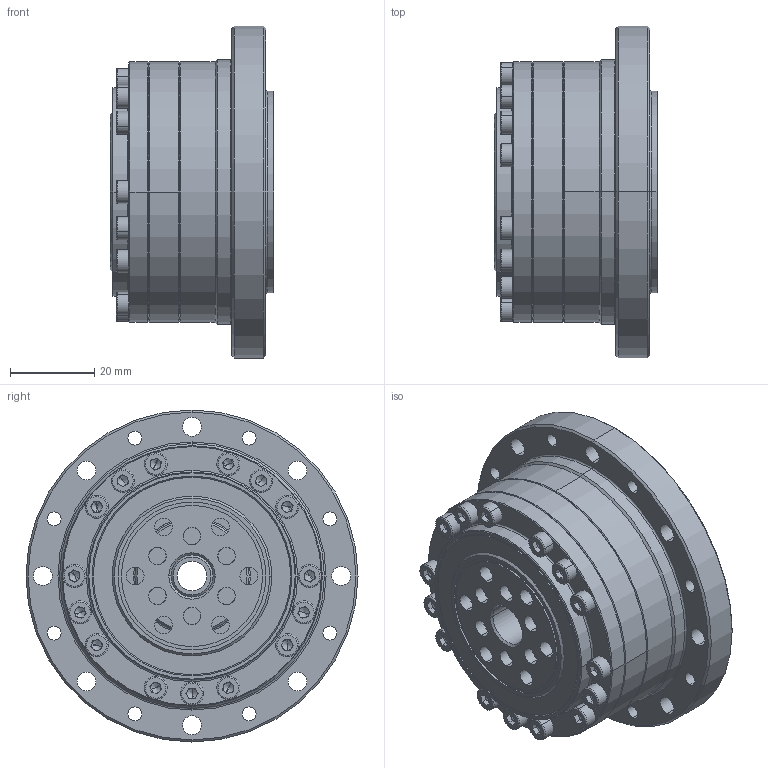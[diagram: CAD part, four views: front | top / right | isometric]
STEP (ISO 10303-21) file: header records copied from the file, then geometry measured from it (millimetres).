
FILE_DESCRIPTION (( 'STEP AP203' ), '1' );
FILE_NAME ('LCSG-17-XXX-C-I.STEP', '2016-08-25T07:40:50', ( 'Windows 蚚誧' ), ( 'Users' ), 'SwSTEP 2.0', 'SolidWorks 2013', '' );
FILE_SCHEMA (( 'CONFIG_CONTROL_DESIGN' ));
Length unit declared in the file: millimetre
Products named in the file (16): RZC-17G内外圈+钢球; socket head cap screw_din_内六角圆柱头螺钉M3 x 16; RZC-17悵厥殤; LCSG-17-XXX-P05-I; 柔性轴承RZC-17G; socket head cap screw_din_内六角圆柱头螺钉M5 x 16; 疏楷汜ん17G-I; 坋趼羞麥芛蹟隊M2 x 4_ISO 7046-1 - M2 x 4 - Z --- 4N; LCSG-17-XXX-P01-I; LCSG-17-XXX-C-I; LCSG-17-XXX-P02-I; LCSG-17-XXX-P04-I; LCSG-17-XXX-P03-I; 15Z-38475; DB-17G-I; socket head cap screw_din_内六角圆柱头螺钉M3 x 10
Assembly tree (36 placements, depth 4):
  LCSG-17-XXX-C-I
    疏楷汜ん17G-I
      LCSG-17-XXX-P03-I
      DB-17G-I
      柔性轴承RZC-17G
        RZC-17G内外圈+钢球
        RZC-17悵厥殤
    LCSG-17-XXX-P01-I
    LCSG-17-XXX-P02-I
    LCSG-17-XXX-P04-I
    15Z-38475
    socket head cap screw_din_内六角圆柱头螺钉M3 x 10  x5
    socket head cap screw_din_内六角圆柱头螺钉M3 x 16  x10
    LCSG-17-XXX-P05-I
    socket head cap screw_din_内六角圆柱头螺钉M5 x 16  x6
    坋趼羞麥芛蹟隊M2 x 4_ISO 7046-1 - M2 x 4 - Z --- 4N  x4
Bounding box: 39 x 79 x 79 mm (x, y, z)
Volume: 91100.8 mm3; surface area: 68400.9 mm2
Topology: 59 solids, 59 shells, 1365 faces, 3193 edges, 1920 vertices
Faces by surface type: plane 508, cylinder 435, cone 228, torus 148, sphere 46
Entity records: 24324 total; most frequent: DIRECTION 4393, CARTESIAN_POINT 3655, ORIENTED_EDGE 3448, AXIS2_PLACEMENT_3D 1885, EDGE_CURVE 1724, VERTEX_POINT 1095, CIRCLE 1088, EDGE_LOOP 963
